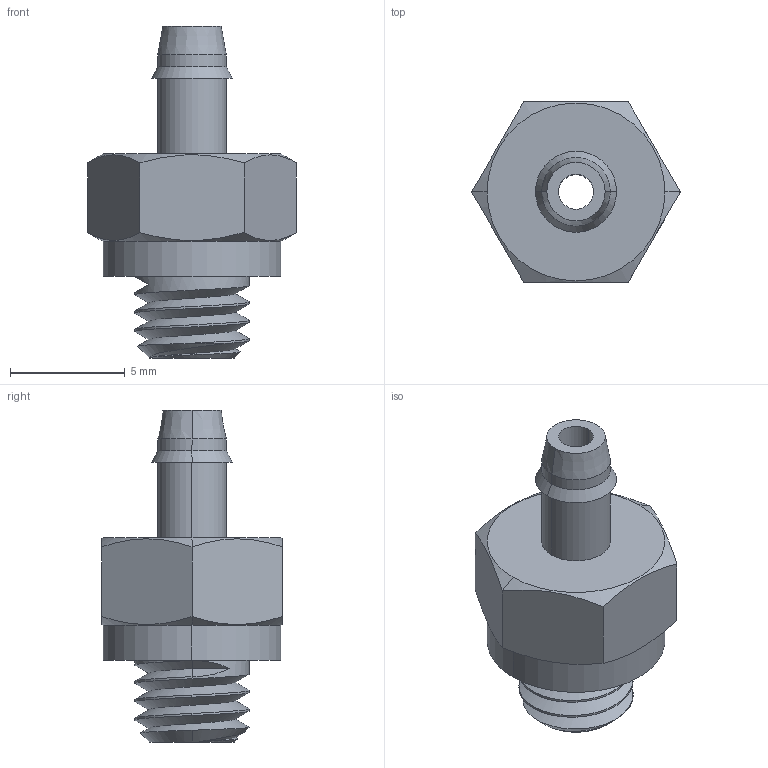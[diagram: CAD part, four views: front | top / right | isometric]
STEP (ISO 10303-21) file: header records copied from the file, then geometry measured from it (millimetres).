
FILE_DESCRIPTION (( 'STEP AP214' ), '1' );
FILE_NAME ('NORDSONEFD-7020671 FITTING M5 X 1-8 ID BARB SS.STEP', '2019-01-22T11:23:17', ( '' ), ( '' ), 'SwSTEP 2.0', 'SolidWorks 2018', '' );
FILE_SCHEMA (( 'AUTOMOTIVE_DESIGN' ));
Length unit declared in the file: inch
Products named in the file (1): NORDSONEFD-7020671 FITTING M5 X 1-8 ID BARB SS
Bounding box: 9.09 x 7.87 x 14.47 mm (x, y, z)
Volume: 342.4 mm3; surface area: 439.5 mm2
Topology: 1 solids, 1 shells, 41 faces, 95 edges, 59 vertices
Faces by surface type: cylinder 16, plane 13, cone 10, bspline 2
Entity records: 1615 total; most frequent: CARTESIAN_POINT 706, ORIENTED_EDGE 190, DIRECTION 169, EDGE_CURVE 95, AXIS2_PLACEMENT_3D 67, VERTEX_POINT 59, EDGE_LOOP 46, FACE_OUTER_BOUND 41
